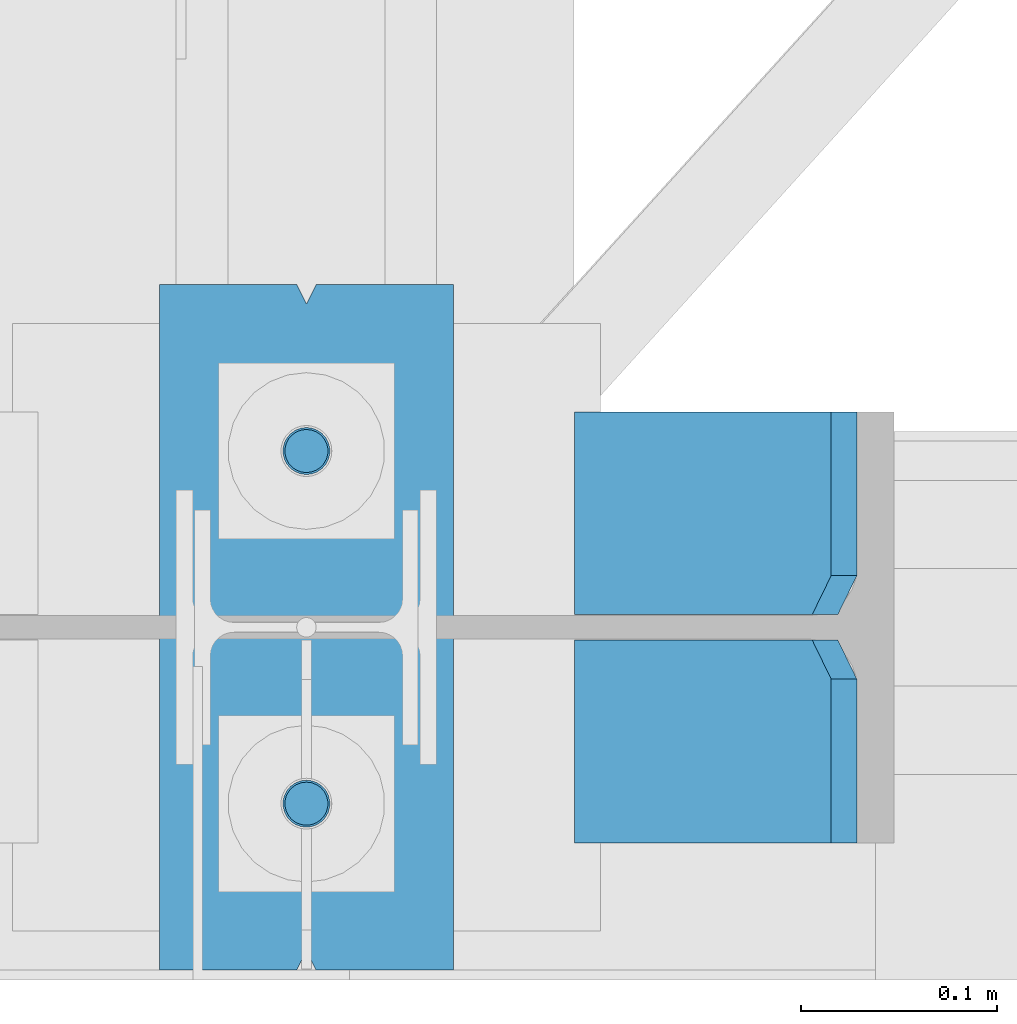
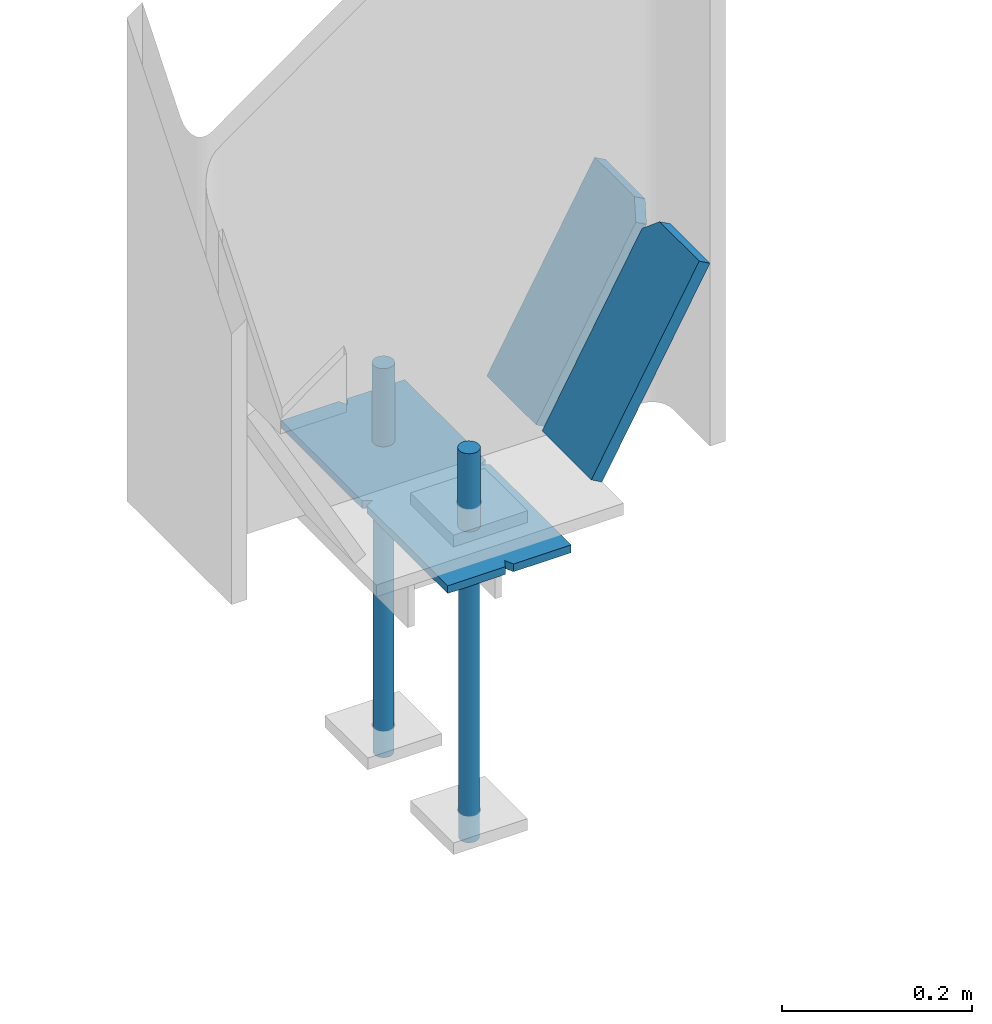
# One storey, part 71 of 123: 7 discrete accessories, 2 elements without a shape of their own.
"""IFC2X3 building model written with IfcOpenShell, lengths in millimetres."""

from ifc_helpers import new_model, si_unit, frame, origin_with_axes, origin_2d_with_axis, place, context, subcontext, project, spatial, polyline, rectangle, circle, outline, extrude, boolean, material, type_object, element, aggregate, save


model = new_model("IFC2X3")

# Units and contexts
model_context = context("Model", 3, precision=1e-05, world=origin_with_axes())
body_context = subcontext(model_context, "Body", "Model", "MODEL_VIEW")
ifc_project = project(units=[si_unit("LENGTHUNIT", "METRE", prefix="MILLI"), si_unit("AREAUNIT", "SQUARE_METRE"), si_unit("VOLUMEUNIT", "CUBIC_METRE"), si_unit("MASSUNIT", "GRAM", prefix="KILO"), si_unit("TIMEUNIT", "SECOND"), si_unit("PLANEANGLEUNIT", "RADIAN"), si_unit("SOLIDANGLEUNIT", "STERADIAN"), si_unit("THERMODYNAMICTEMPERATUREUNIT", "DEGREE_CELSIUS"), si_unit("LUMINOUSINTENSITYUNIT", "LUMEN")], contexts=[model_context])

# Site, building, storey
site_placement = place(None, origin_with_axes())
site = spatial("IfcSite", under=ifc_project, at=site_placement, Name="Undefined", CompositionType="ELEMENT")
building_placement = place(site_placement, origin_with_axes())
building = spatial("IfcBuilding", under=site, at=building_placement, Name="Undefined", CompositionType="ELEMENT")
storey_placement = place(building_placement, origin_with_axes())
storey = spatial("IfcBuildingStorey", under=building, at=storey_placement, Name="Undefined", CompositionType="ELEMENT", Elevation=0.0)

# Assembly, discrete accessories
assembly_1_placement = place(storey_placement, origin_with_axes())
assembly_1 = element("IfcElementAssembly", 1, at=assembly_1_placement, inside=storey, Name="Steel Assembly", AssemblyPlace="NOTDEFINED", PredefinedType="RIGID_FRAME")
ifc_material = material(Name="STEEL/S235-E24")
discrete_accessory_type_1 = type_object("IfcDiscreteAccessoryType", Name="PLATINE")
discrete_accessory_1_placement = place(assembly_1_placement, frame((12954.4453293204, 58.25, 3.65178558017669), z_axis=(0.0, 1.0, 0.0), x_axis=(-0.486904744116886, 0.0, -0.873455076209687)))
discrete_accessory_1 = element("IfcDiscreteAccessory", 2, at=discrete_accessory_1_placement, type_object=discrete_accessory_type_1, material=ifc_material, Name="PLATINE", ObjectType="PL15*103.5", context=body_context, shape_type="CSG", body=[
    boolean("DIFFERENCE", extrude(rectangle(XDim=15.0, YDim=103.5, at=origin_2d_with_axis()), frame((269.046464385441, -1.49350789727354e-14, 0.0), z_axis=(-1.0, 0.0, 0.0), x_axis=(0.0, -1.0, 0.0)), (0.0, 0.0, 1.0), 269.0), extrude(outline(polyline([(0.0, 0.0), (19.999999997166, 0.0), (20.0000000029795, 20.0), (0.0, 0.0)])), frame((20.0000000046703, -10.4999999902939, -51.75), z_axis=(0.0, 1.0, 0.0), x_axis=(-1.0, 0.0, 0.0)), (0.0, 0.0, 1.0), 21.0)),
])
discrete_accessory_2_placement = place(assembly_1_placement, frame((12954.4453293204, -58.25, 3.65178558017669), z_axis=(0.0, 1.0, 0.0), x_axis=(-0.486904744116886, 0.0, -0.873455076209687)))
discrete_accessory_2 = element("IfcDiscreteAccessory", 3, at=discrete_accessory_2_placement, type_object=discrete_accessory_type_1, material=ifc_material, Name="PLATINE", ObjectType="PL15*103.5", context=body_context, shape_type="CSG", body=[
    boolean("DIFFERENCE", extrude(rectangle(XDim=15.0, YDim=103.5, at=origin_2d_with_axis()), frame((269.046464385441, -1.49350789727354e-14, 0.0), z_axis=(-1.0, 0.0, 0.0), x_axis=(0.0, -1.0, 0.0)), (0.0, 0.0, 1.0), 269.0), extrude(outline(polyline([(0.0, 0.0), (28.2842712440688, -2.00088834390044e-11), (14.1421356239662, 14.1421356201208), (0.0, 0.0)])), frame((20.0000000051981, -10.4999999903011, 51.7500000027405), z_axis=(0.0, 1.0, 0.0), x_axis=(-0.707106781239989, -7.80642606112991e-10, -0.707106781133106)), (0.0, 0.0, 1.0), 21.0)),
])
aggregate(assembly_1, [discrete_accessory_1, discrete_accessory_2])

assembly_2_placement = place(storey_placement, origin_with_axes())
assembly_2 = element("IfcElementAssembly", 4, at=assembly_2_placement, inside=storey, Name="Steel Assembly", AssemblyPlace="NOTDEFINED", PredefinedType="RIGID_FRAME")
discrete_accessory_type_2 = type_object("IfcDiscreteAccessoryType", Name="TIGE D'ANCRAGE")
discrete_accessory_3_placement = place(assembly_2_placement, frame((12680.0, -90.0028495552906, -150.0), z_axis=(-1.0, 0.0, 0.0), x_axis=(0.0, 0.0, -1.0)))
discrete_accessory_3 = element("IfcDiscreteAccessory", 5, at=discrete_accessory_3_placement, type_object=discrete_accessory_type_2, material=ifc_material, Name="TIGE D'ANCRAGE", ObjectType="D24", context=body_context, shape_type="SweptSolid", body=[
    extrude(circle(Radius=12.0, at=origin_2d_with_axis()), frame((150.0, 0.0, 0.0), z_axis=(-1.0, 0.0, 0.0), x_axis=(0.0, -1.0, 0.0)), (0.0, 0.0, 1.0), 150.0),
])
discrete_accessory_4_placement = place(assembly_2_placement, frame((12680.0, -90.0028495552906, -300.0), z_axis=(-1.0, 0.0, 0.0), x_axis=(0.0, 0.0, -1.0)))
discrete_accessory_4 = element("IfcDiscreteAccessory", 6, at=discrete_accessory_4_placement, type_object=discrete_accessory_type_2, material=ifc_material, Name="TIGE D'ANCRAGE", ObjectType="D22", context=body_context, shape_type="SweptSolid", body=[
    extrude(circle(Radius=11.0, at=origin_2d_with_axis()), frame((350.0, 0.0, 0.0), z_axis=(-1.0, 0.0, 0.0), x_axis=(0.0, -1.0, 0.0)), (0.0, 0.0, 1.0), 350.0),
])
discrete_accessory_5_placement = place(assembly_2_placement, frame((12680.0, 89.9971504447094, -150.0), z_axis=(-1.0, 0.0, 0.0), x_axis=(0.0, 0.0, -1.0)))
discrete_accessory_5 = element("IfcDiscreteAccessory", 7, at=discrete_accessory_5_placement, type_object=discrete_accessory_type_2, material=ifc_material, Name="TIGE D'ANCRAGE", ObjectType="D24", context=body_context, shape_type="SweptSolid", body=[
    extrude(circle(Radius=12.0, at=origin_2d_with_axis()), frame((150.0, 0.0, 0.0), z_axis=(-1.0, 0.0, 0.0), x_axis=(0.0, -1.0, 0.0)), (0.0, 0.0, 1.0), 150.0),
])
discrete_accessory_6_placement = place(assembly_2_placement, frame((12680.0, 89.9971504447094, -300.0), z_axis=(-1.0, 0.0, 0.0), x_axis=(0.0, 0.0, -1.0)))
discrete_accessory_6 = element("IfcDiscreteAccessory", 8, at=discrete_accessory_6_placement, type_object=discrete_accessory_type_2, material=ifc_material, Name="TIGE D'ANCRAGE", ObjectType="D22", context=body_context, shape_type="SweptSolid", body=[
    extrude(circle(Radius=11.0, at=origin_2d_with_axis()), frame((350.0, 0.0, 0.0), z_axis=(-1.0, 0.0, 0.0), x_axis=(0.0, -1.0, 0.0)), (0.0, 0.0, 1.0), 350.0),
])
discrete_accessory_type_3 = type_object("IfcDiscreteAccessoryType", Name="PRESCELLEMENT PS24")
discrete_accessory_7_placement = place(assembly_2_placement, frame((12680.0, 175.0, -255.0), z_axis=(0.0, 0.0, 1.0), x_axis=(0.0, -1.0, 0.0)))
discrete_accessory_7 = element("IfcDiscreteAccessory", 9, at=discrete_accessory_7_placement, type_object=discrete_accessory_type_3, material=ifc_material, Name="PRESCELLEMENT PS24", ObjectType="PL10*150", context=body_context, shape_type="CSG", body=[
    boolean("DIFFERENCE", boolean("DIFFERENCE", boolean("DIFFERENCE", boolean("DIFFERENCE", extrude(outline(polyline([(9.99999993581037, -3.76858224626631e-08), (0.0, 5.00000014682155), (0.0, 75.0), (170.0, 75.0), (174.999999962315, 65.0000000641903), (180.000000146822, 75.0), (350.0, 75.0), (350.0, 5.00000018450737), (340.0, 0.0), (350.0, -4.99999996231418), (350.0, -75.0), (180.0, -75.0), (175.000000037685, -65.0000000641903), (169.999999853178, -74.9999999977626), (0.0, -75.0), (0.0, -5.0), (9.99999993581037, -3.76858224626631e-08)])), frame((0.0, 0.0, -5.0), z_axis=(0.0, 0.0, 1.0), x_axis=(1.0, 0.0, 0.0)), (0.0, 0.0, 1.0), 10.0), extrude(outline(polyline([(0.0, 0.0), (11.1803398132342, 1.2732925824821e-11), (4.47213602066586, 8.94427204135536), (0.0, 0.0)])), frame((0.0, -5.0, -7.5), z_axis=(0.0, 0.0, 1.0), x_axis=(0.89442719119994, 0.44721359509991, 0.0)), (0.0, 0.0, 1.0), 15.0)), extrude(outline(polyline([(0.0, 0.0), (11.1803398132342, 1.2732925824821e-11), (4.47213602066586, 8.94427204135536), (0.0, 0.0)])), frame((180.0, -75.0, -7.5), z_axis=(0.0, 0.0, 1.0), x_axis=(-0.447213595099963, 0.894427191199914, 0.0)), (0.0, 0.0, 1.0), 15.0)), extrude(outline(polyline([(0.0, 0.0), (11.1803398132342, 1.2732925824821e-11), (6.70820379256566, 8.94427204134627), (0.0, 0.0)])), frame((340.0, 0.0, -7.5), z_axis=(0.0, 0.0, 1.0), x_axis=(0.89442719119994, -0.44721359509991, 0.0)), (0.0, 0.0, 1.0), 15.0)), extrude(outline(polyline([(0.0, 0.0), (11.1803398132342, 1.2732925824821e-11), (4.47213602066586, 8.94427204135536), (0.0, 0.0)])), frame((170.0, 75.0, -7.5), z_axis=(0.0, 0.0, 1.0), x_axis=(0.447213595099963, -0.894427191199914, 0.0)), (0.0, 0.0, 1.0), 15.0)),
])
aggregate(assembly_2, [discrete_accessory_3, discrete_accessory_4, discrete_accessory_5, discrete_accessory_6, discrete_accessory_7])

save(model, "model.ifc")
